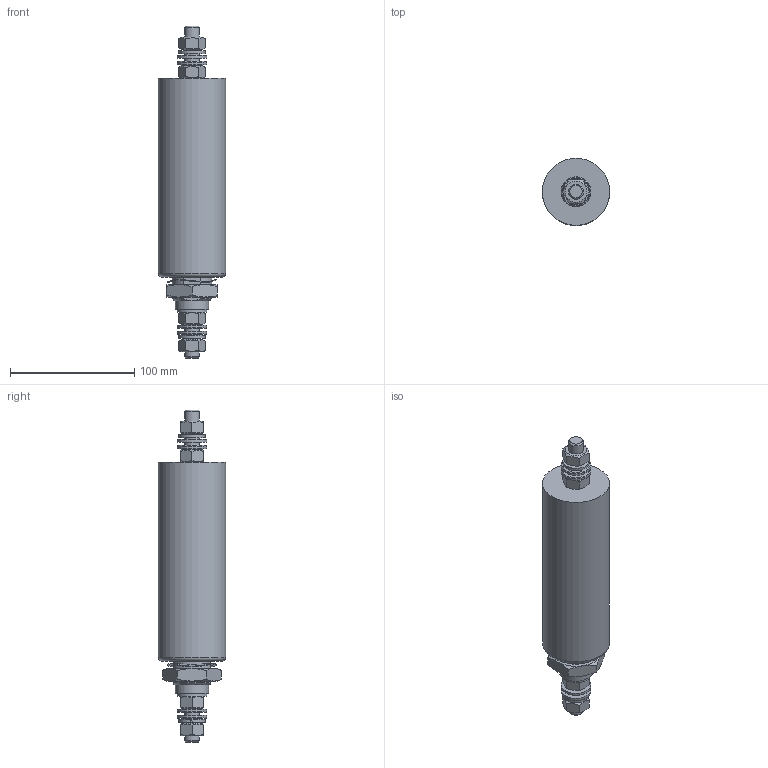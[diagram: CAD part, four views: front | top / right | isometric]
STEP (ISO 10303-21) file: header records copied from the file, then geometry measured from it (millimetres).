
FILE_DESCRIPTION((''),'2;1');
FILE_NAME('P:\Construction\Filter_Marketing\FN\FN7611\FN7611-250-M12\FN7611-250-M12.stp','2014-12-16T10:25:17',('erika.jenzer'),(''),'Autodesk Inventor 2013','Autodesk Inventor 2013','');
FILE_SCHEMA(('AUTOMOTIVE_DESIGN { 1 0 10303 214 1 1 1 1 }'));
Length unit declared in the file: millimetre
Products named in the file (1): FN7611-250-M12
Bounding box: 54 x 54 x 267 mm (x, y, z)
Volume: 412892.8 mm3; surface area: 47557.2 mm2
Topology: 10 solids, 10 shells, 146 faces, 329 edges, 208 vertices
Faces by surface type: plane 75, cylinder 39, cone 31, torus 1
Full cylindrical faces by diameter (mm): 12 x6, 13 x5, 24 x5, 26.9 x1, 33 x1, 54 x1
Entity records: 4062 total; most frequent: CARTESIAN_POINT 873, DIRECTION 618, ORIENTED_EDGE 578, EDGE_CURVE 289, AXIS2_PLACEMENT_3D 274, EDGE_LOOP 206, VERTEX_POINT 205, FACE_OUTER_BOUND 146
